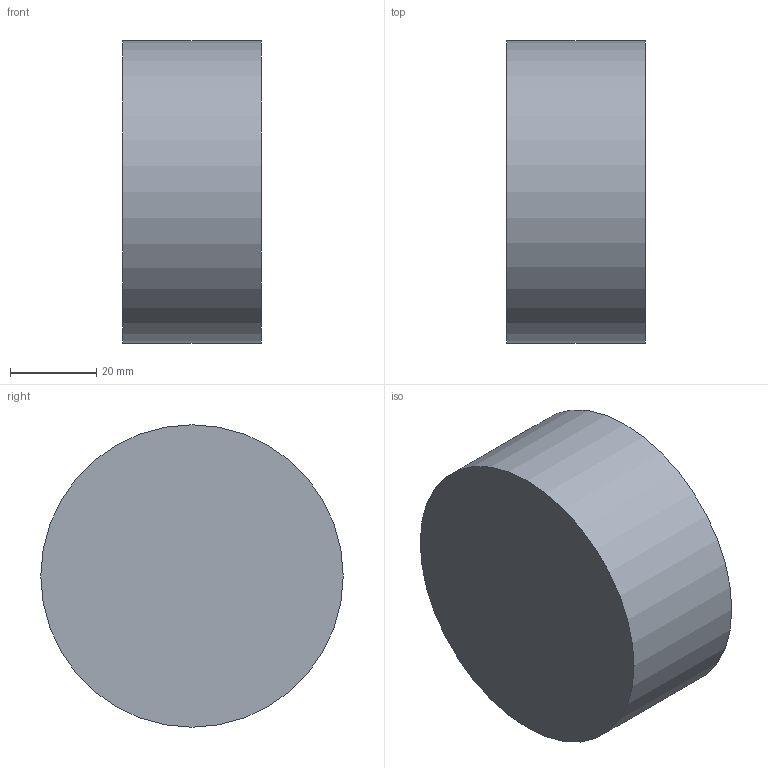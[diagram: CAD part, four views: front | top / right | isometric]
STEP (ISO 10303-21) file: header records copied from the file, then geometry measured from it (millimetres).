
FILE_DESCRIPTION(('FreeCAD Model'),'2;1');
FILE_NAME( '/media/mm2/1TB_Workstation/Daten/Projekte/FC_TEST/Drehteil_V002.step' ,'2015-06-23T14:46:34',('Author'),(''), 'Open CASCADE STEP processor 6.8','FreeCAD','Unknown');
FILE_SCHEMA(('CONFIG_CONTROL_DESIGN','SHAPE_APPEARANCE_LAYER_MIM'));
Length unit declared in the file: millimetre
Products named in the file (2): ASSEMBLY; Revolution
Assembly tree (1 placements, depth 2):
  ASSEMBLY
    Revolution
Bounding box: 32 x 70 x 70 mm (x, y, z)
Volume: 102625.4 mm3; surface area: 10885.6 mm2
Topology: 1 solids, 1 shells, 3 faces, 3 edges, 2 vertices
Faces by surface type: plane 1, cylinder 1, revolution 1
Full cylindrical faces by diameter (mm): 70 x1
Entity records: 210 total; most frequent: DIRECTION 26, CARTESIAN_POINT 21, CC_DESIGN_PERSON_AND_ORGANIZATION_ASSIGNMENT 9, AXIS2_PLACEMENT_3D 8, ORIENTED_EDGE 8, PCURVE 8, DEFINITIONAL_REPRESENTATION 8, LINE 8
